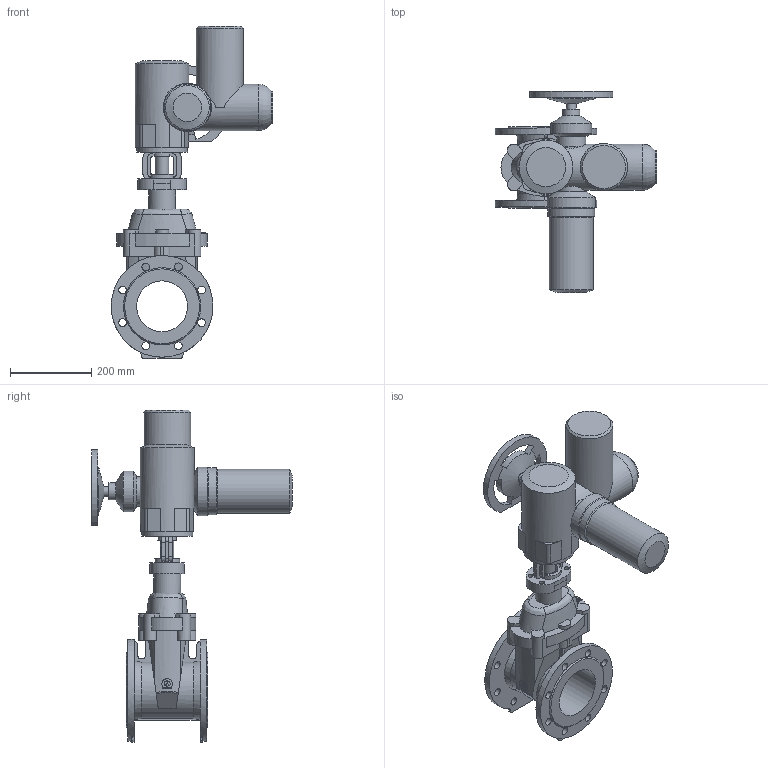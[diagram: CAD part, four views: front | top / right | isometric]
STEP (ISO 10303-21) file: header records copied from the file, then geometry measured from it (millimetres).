
FILE_DESCRIPTION(('STEP AP203'), '1');
FILE_NAME('青溻桄赅 47GV.M DN125 + MT903.A10', '', ('UNSPECIFIED'), ('UNSPECIFIED'), 'ASCON STEP Converter 1.6', 'ASCON Math Kernel', '');
FILE_SCHEMA(('CONFIG_CONTROL_DESIGN'));
Length unit declared in the file: millimetre
Bounding box: 397 x 494 x 816 mm (x, y, z)
Volume: 15306827 mm3; surface area: 968517.3 mm2
Topology: 1 solids, 1 shells, 334 faces, 904 edges, 596 vertices
Faces by surface type: plane 163, cylinder 144, cone 16, bspline 10, torus 1
Full cylindrical faces by diameter (mm): 8.5 x4, 12 x8, 19 x16, 24 x3, 33 x1, 34 x1, 42 x1, 46 x1, 66 x2, 70 x2, 72 x1, 80 x1, 100 x1, 108 x1, 114 x1, 115 x1, 116 x1, 119 x1, 125 x2, 132 x1, 250 x2
Entity records: 17410 total; most frequent: CARTESIAN_POINT 6420, DIRECTION 1687, ORIENTED_EDGE 1678, EDGE_CURVE 839, AXIS2_PLACEMENT_3D 647, VERTEX_POINT 596, EDGE_LOOP 477, LINE 393
